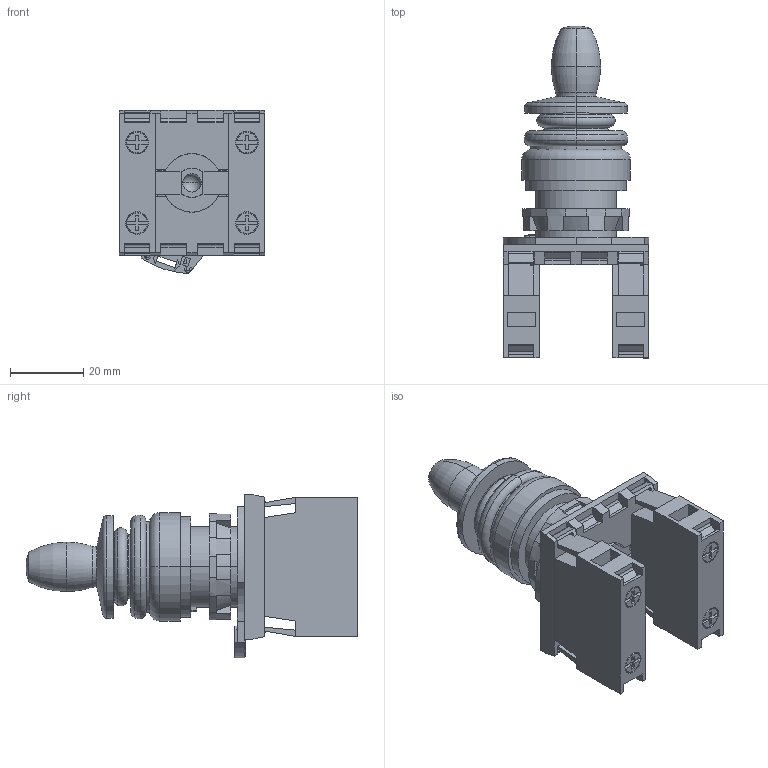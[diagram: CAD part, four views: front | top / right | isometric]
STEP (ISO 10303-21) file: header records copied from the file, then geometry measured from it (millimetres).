
FILE_DESCRIPTION (( 'STEP AP214' ), '1' );
FILE_NAME ('ZF_STEP_E2_AC-DXBC2621.step', '2016-08-01T07:43:05', ( 'utente' ), ( 'Microsoft' ), 'SwSTEP 2.0', 'SolidWorks 2014', '' );
FILE_SCHEMA (( 'AUTOMOTIVE_DESIGN' ));
Length unit declared in the file: millimetre
Products named in the file (6): ZF_STEP_E2_CP10GxV1_A10; ZF_STEP_E2_1BAC21; ZF_STEP_E2_xMA2xxAxx; ZF_STEP_VE_GFx2xA_21008; ZF_STEP_E2_xMA2xxxxx_A; ZF_STEP_E2_AC-DXBC2621
Assembly tree (6 placements, depth 3):
  ZF_STEP_E2_AC-DXBC2621
    ZF_STEP_E2_xMA2xxAxx
      ZF_STEP_E2_xMA2xxxxx_A
      ZF_STEP_VE_GFx2xA_21008
    ZF_STEP_E2_1BAC21
    ZF_STEP_E2_CP10GxV1_A10  x2
Bounding box: 39.9 x 90.7 x 44.58 mm (x, y, z)
Volume: 47181.1 mm3; surface area: 21882.2 mm2
Topology: 5 solids, 5 shells, 562 faces, 1528 edges, 1001 vertices
Faces by surface type: plane 399, cylinder 106, torus 40, cone 13, sphere 4
Entity records: 14688 total; most frequent: CARTESIAN_POINT 2578, ORIENTED_EDGE 2452, DIRECTION 2441, EDGE_CURVE 1226, LINE 885, VECTOR 885, VERTEX_POINT 803, AXIS2_PLACEMENT_3D 778
